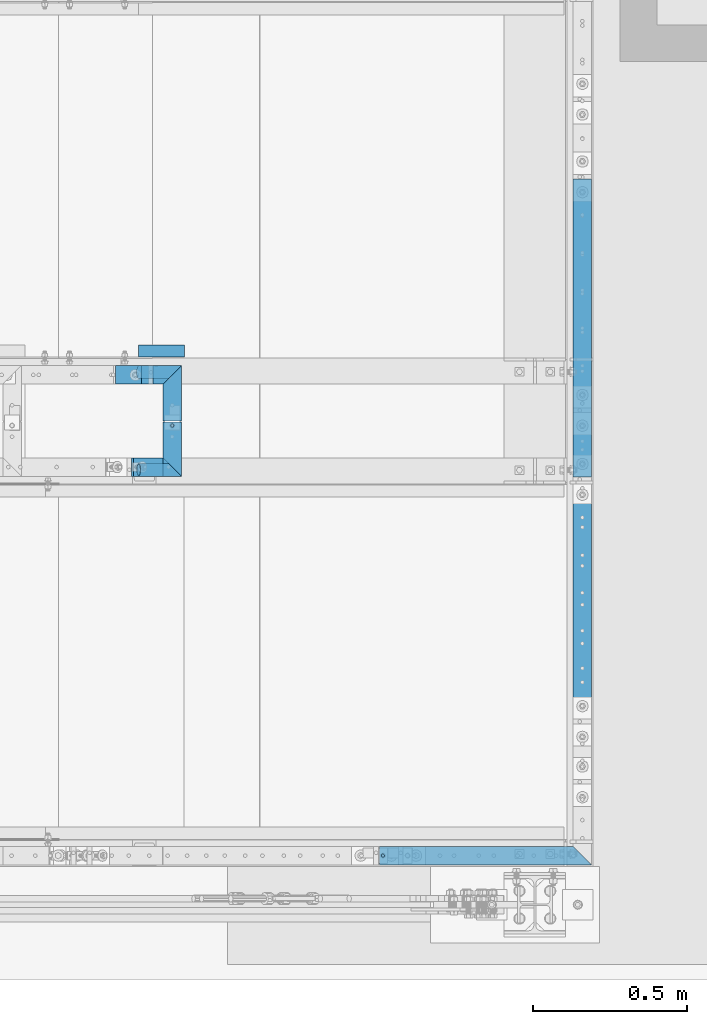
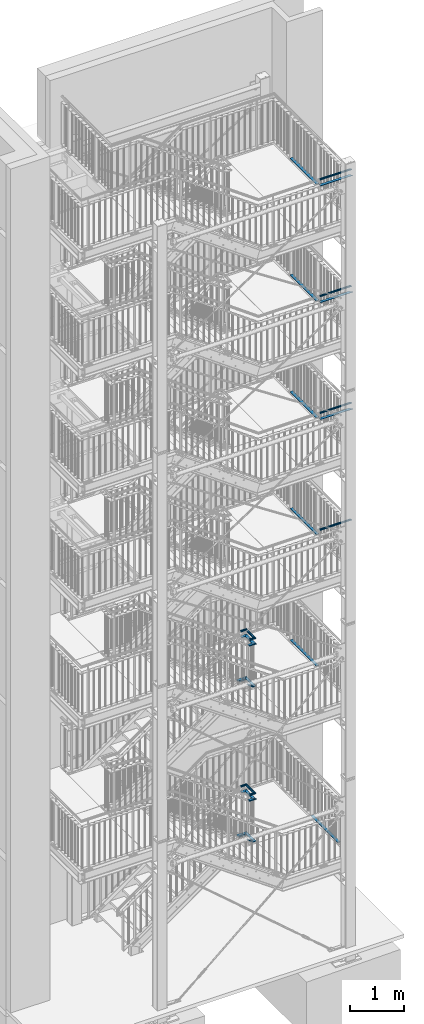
# One storey, part 139 of 821: 39 beams, 2 members, 19 openings.
"""IFC2X3 building model written with IfcOpenShell, lengths in millimetres."""

from ifc_helpers import new_model, entity, si_unit, converted_unit, frame, frame_2d, origin, origin_with_axes, origin_2d, origin_2d_with_axis, place, context, project, spatial, polyline, rectangle, circle, hollow_circle, l_section, outline, extrude, clip, halfspace, material, element, save


model = new_model("IFC2X3")

# Units and contexts
model_context = context("Model", 3, precision=1e-09, world=origin_with_axes())
ifc_project = project(units=[si_unit("LENGTHUNIT", "METRE", prefix="MILLI"), si_unit("AREAUNIT", "SQUARE_METRE"), si_unit("VOLUMEUNIT", "CUBIC_METRE"), converted_unit("PLANEANGLEUNIT", "DEGREE", entity("IfcPlaneAngleMeasure", 0.01745329), si_unit("PLANEANGLEUNIT", "RADIAN"), dimensions=[0, 0, 0, 0, 0, 0, 0])], contexts=[model_context])

# Site, building, storey
site_placement = place(None, origin_with_axes())
site = spatial("IfcSite", under=ifc_project, at=site_placement, Name="Cnopf'sche Kinderklinik", CompositionType="ELEMENT")
building_placement = place(site_placement, origin_with_axes())
building = spatial("IfcBuilding", under=site, at=building_placement, Name="Struktur 1", CompositionType="ELEMENT")
storey_placement = place(building_placement, origin_with_axes())
storey = spatial("IfcBuildingStorey", under=building, at=storey_placement, Name="Default Storey", CompositionType="ELEMENT", Elevation=0.0)

# Beam, openings
ifc_material = material(Name="S235JR")
beam_1_placement = place(None, frame((9021.713402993, 5976.351913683, 2246.0526312), z_axis=(0.0, 1.0, 0.0), x_axis=(0.0, 0.0, -1.0)))
beam_1 = element("IfcBeam", 1, at=beam_1_placement, inside=storey, material=ifc_material, Name="Railing_Kneerail_Landing#8", ObjectType="Railing_Kneerail_Landing#8", context=model_context, shape_type="SweptSolid", body=[
    extrude(rectangle(XDim=10.0, YDim=60.0, at=origin_2d()), origin(), (0.0, 0.0, -1.0), 1013.077117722),
])
opening_1_placement = place(beam_1_placement, frame((60.0, 0.0, -1013.077117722), z_axis=(-1.0, 0.0, 0.0), x_axis=(0.0, -1.0, 0.0)))
element("IfcOpeningElement", 2, at=opening_1_placement, cuts=beam_1, ObjectType="Opening", context=model_context, shape_type="SweptSolid", body=[
    extrude(outline(polyline([(-30.001, 1005.576117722), (30.001, 1005.576117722), (30.001, 1020.578117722), (-30.001, 1020.578117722), (-30.001, 1005.576117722)])), origin(), (0.0, 0.0, 1.0), 120.0),
])
opening_2_placement = place(beam_1_placement, frame((60.0, 0.0, -1013.077117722), z_axis=(-1.0, 0.0, 0.0), x_axis=(0.0, -1.0, 0.0)))
element("IfcOpeningElement", 3, at=opening_2_placement, cuts=beam_1, ObjectType="Opening", context=model_context, shape_type="SweptSolid", body=[
    extrude(outline(polyline([(-30.001, -7.501), (30.001, -7.501), (30.001, 7.501), (-30.001, 7.501), (-30.001, -7.501)])), origin(), (0.0, 0.0, 1.0), 120.0),
])

beam_2_placement = place(None, frame((9021.713402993, 6736.736257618, 5739.8947367), z_axis=(0.0, 1.0, 0.0), x_axis=(0.0, 0.0, -1.0)))
beam_2 = element("IfcBeam", 4, at=beam_2_placement, inside=storey, material=ifc_material, Name="Railing_Kneerail_Landing#9", ObjectType="Railing_Kneerail_Landing#9", context=model_context, shape_type="SweptSolid", body=[
    extrude(rectangle(XDim=10.0, YDim=60.0, at=origin_2d()), origin(), (0.0, 0.0, -1.0), 985.000142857),
])
opening_3_placement = place(beam_2_placement, frame((60.0, 0.0, -985.000142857), z_axis=(-1.0, 0.0, 0.0), x_axis=(0.0, -1.0, 0.0)))
element("IfcOpeningElement", 5, at=opening_3_placement, cuts=beam_2, ObjectType="Opening", context=model_context, shape_type="SweptSolid", body=[
    extrude(outline(polyline([(-30.001, 977.499142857), (30.001, 977.499142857), (30.001, 992.501142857), (-30.001, 992.501142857), (-30.001, 977.499142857)])), origin(), (0.0, 0.0, 1.0), 120.0),
])
opening_4_placement = place(beam_2_placement, frame((60.0, 0.0, -985.000142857), z_axis=(-1.0, 0.0, 0.0), x_axis=(0.0, -1.0, 0.0)))
element("IfcOpeningElement", 6, at=opening_4_placement, cuts=beam_2, ObjectType="Opening", context=model_context, shape_type="SweptSolid", body=[
    extrude(outline(polyline([(-30.001, -7.501), (30.001, -7.501), (30.001, 7.501), (-30.001, 7.501), (-30.001, -7.501)])), origin(), (0.0, 0.0, 1.0), 120.0),
])

beam_3_placement = place(None, frame((9021.713402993, 6736.736257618, 8701.0), z_axis=(0.0, 1.0, 0.0), x_axis=(0.0, 0.0, -1.0)))
beam_3 = element("IfcBeam", 7, at=beam_3_placement, inside=storey, material=ifc_material, Name="Railing_Kneerail_Landing#9", ObjectType="Railing_Kneerail_Landing#9", context=model_context, shape_type="SweptSolid", body=[
    extrude(rectangle(XDim=10.0, YDim=60.0, at=origin_2d()), origin(), (0.0, 0.0, -1.0), 985.000142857),
])
opening_5_placement = place(beam_3_placement, frame((60.0, 0.0, -985.000142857), z_axis=(-1.0, 0.0, 0.0), x_axis=(0.0, -1.0, 0.0)))
element("IfcOpeningElement", 8, at=opening_5_placement, cuts=beam_3, ObjectType="Opening", context=model_context, shape_type="SweptSolid", body=[
    extrude(outline(polyline([(-30.001, 977.499142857), (30.001, 977.499142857), (30.001, 992.501142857), (-30.001, 992.501142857), (-30.001, 977.499142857)])), origin(), (0.0, 0.0, 1.0), 120.0),
])
opening_6_placement = place(beam_3_placement, frame((60.0, 0.0, -985.000142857), z_axis=(-1.0, 0.0, 0.0), x_axis=(0.0, -1.0, 0.0)))
element("IfcOpeningElement", 9, at=opening_6_placement, cuts=beam_3, ObjectType="Opening", context=model_context, shape_type="SweptSolid", body=[
    extrude(outline(polyline([(-30.001, -7.501), (30.001, -7.501), (30.001, 7.501), (-30.001, 7.501), (-30.001, -7.501)])), origin(), (0.0, 0.0, 1.0), 120.0),
])

# Beam
beam_4_placement = place(None, frame((7726.713402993, 6160.936971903, 5663.6947367), z_axis=(1.0, 0.0, 0.0), x_axis=(0.0, 0.0, -1.0)))
element("IfcBeam", 10, at=beam_4_placement, inside=storey, material=ifc_material, Name="TopLanding#3", ObjectType="TopLanding#3", context=model_context, shape_type="SweptSolid", body=[
    extrude(l_section(Depth=40.0, Width=40.0, Thickness=4.0, FilletRadius=6.0, EdgeRadius=3.0, at=frame_2d((8.8, 8.8))), origin(), (0.0, 0.0, -1.0), 150.0),
])

# Beam, openings
beam_5_placement = place(None, frame((9021.713402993, 6736.736257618, 11330.5000003), z_axis=(0.0, 1.0, 0.0), x_axis=(0.0, 0.0, -1.0)))
beam_5 = element("IfcBeam", 11, at=beam_5_placement, inside=storey, material=ifc_material, Name="Railing_Kneerail_Landing#9", ObjectType="Railing_Kneerail_Landing#9", context=model_context, shape_type="SweptSolid", body=[
    extrude(rectangle(XDim=10.0, YDim=60.0, at=origin_2d()), origin(), (0.0, 0.0, -1.0), 985.000142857),
])
opening_7_placement = place(beam_5_placement, frame((60.0, 0.0, -985.000142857), z_axis=(-1.0, 0.0, 0.0), x_axis=(0.0, -1.0, 0.0)))
element("IfcOpeningElement", 12, at=opening_7_placement, cuts=beam_5, ObjectType="Opening", context=model_context, shape_type="SweptSolid", body=[
    extrude(outline(polyline([(-30.001, 977.499142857), (30.001, 977.499142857), (30.001, 992.501142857), (-30.001, 992.501142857), (-30.001, 977.499142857)])), origin(), (0.0, 0.0, 1.0), 120.0),
])
opening_8_placement = place(beam_5_placement, frame((60.0, 0.0, -985.000142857), z_axis=(-1.0, 0.0, 0.0), x_axis=(0.0, -1.0, 0.0)))
element("IfcOpeningElement", 13, at=opening_8_placement, cuts=beam_5, ObjectType="Opening", context=model_context, shape_type="SweptSolid", body=[
    extrude(outline(polyline([(-30.001, -7.501), (30.001, -7.501), (30.001, 7.501), (-30.001, 7.501), (-30.001, -7.501)])), origin(), (0.0, 0.0, 1.0), 120.0),
])

beam_6_placement = place(None, frame((9021.713402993, 6736.736257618, 13961.5000001), z_axis=(0.0, 1.0, 0.0), x_axis=(0.0, 0.0, -1.0)))
beam_6 = element("IfcBeam", 14, at=beam_6_placement, inside=storey, material=ifc_material, Name="Railing_Kneerail_Landing#9", ObjectType="Railing_Kneerail_Landing#9", context=model_context, shape_type="SweptSolid", body=[
    extrude(rectangle(XDim=10.0, YDim=60.0, at=origin_2d()), origin(), (0.0, 0.0, -1.0), 985.000142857),
])
opening_9_placement = place(beam_6_placement, frame((60.0, 0.0, -985.000142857), z_axis=(-1.0, 0.0, 0.0), x_axis=(0.0, -1.0, 0.0)))
element("IfcOpeningElement", 15, at=opening_9_placement, cuts=beam_6, ObjectType="Opening", context=model_context, shape_type="SweptSolid", body=[
    extrude(outline(polyline([(-30.001, 977.499142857), (30.001, 977.499142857), (30.001, 992.501142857), (-30.001, 992.501142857), (-30.001, 977.499142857)])), origin(), (0.0, 0.0, 1.0), 120.0),
])
opening_10_placement = place(beam_6_placement, frame((60.0, 0.0, -985.000142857), z_axis=(-1.0, 0.0, 0.0), x_axis=(0.0, -1.0, 0.0)))
element("IfcOpeningElement", 16, at=opening_10_placement, cuts=beam_6, ObjectType="Opening", context=model_context, shape_type="SweptSolid", body=[
    extrude(outline(polyline([(-30.001, -7.501), (30.001, -7.501), (30.001, 7.501), (-30.001, 7.501), (-30.001, -7.501)])), origin(), (0.0, 0.0, 1.0), 120.0),
])

# Beam
beam_7_placement = place(None, frame((7726.713402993, 6160.936971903, 2169.8526312), z_axis=(1.0, 0.0, 0.0), x_axis=(0.0, 0.0, -1.0)))
element("IfcBeam", 17, at=beam_7_placement, inside=storey, material=ifc_material, Name="TopLanding#3", ObjectType="TopLanding#3", context=model_context, shape_type="SweptSolid", body=[
    extrude(l_section(Depth=40.0, Width=40.0, Thickness=4.0, FilletRadius=6.0, EdgeRadius=3.0, at=frame_2d((8.8, 8.8))), origin(), (0.0, 0.0, -1.0), 150.0),
])

# Beam, openings
beam_8_placement = place(None, frame((9021.713402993, 6736.736257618, 16589.0000003), z_axis=(0.0, 1.0, 0.0), x_axis=(0.0, 0.0, -1.0)))
beam_8 = element("IfcBeam", 18, at=beam_8_placement, inside=storey, material=ifc_material, Name="Railing_Kneerail_Landing#9", ObjectType="Railing_Kneerail_Landing#9", context=model_context, shape_type="SweptSolid", body=[
    extrude(rectangle(XDim=10.0, YDim=60.0, at=origin_2d()), origin(), (0.0, 0.0, -1.0), 985.000142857),
])
opening_11_placement = place(beam_8_placement, frame((60.0, 0.0, -985.000142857), z_axis=(-1.0, 0.0, 0.0), x_axis=(0.0, -1.0, 0.0)))
element("IfcOpeningElement", 19, at=opening_11_placement, cuts=beam_8, ObjectType="Opening", context=model_context, shape_type="SweptSolid", body=[
    extrude(outline(polyline([(-30.001, 977.499142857), (30.001, 977.499142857), (30.001, 992.501142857), (-30.001, 992.501142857), (-30.001, 977.499142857)])), origin(), (0.0, 0.0, 1.0), 120.0),
])
opening_12_placement = place(beam_8_placement, frame((60.0, 0.0, -985.000142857), z_axis=(-1.0, 0.0, 0.0), x_axis=(0.0, -1.0, 0.0)))
element("IfcOpeningElement", 20, at=opening_12_placement, cuts=beam_8, ObjectType="Opening", context=model_context, shape_type="SweptSolid", body=[
    extrude(outline(polyline([(-30.001, -7.501), (30.001, -7.501), (30.001, 7.501), (-30.001, 7.501), (-30.001, -7.501)])), origin(), (0.0, 0.0, 1.0), 120.0),
])

# Beams
beam_9_placement = place(None, frame((7545.238006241, 6100.536971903, 3321.0526312), z_axis=(-1.0, 0.0, 0.0), x_axis=(0.0, 0.0, -1.0)))
element("IfcBeam", 21, at=beam_9_placement, inside=storey, material=ifc_material, Name="Railing_Handrail_Landing#3", ObjectType="Railing_Handrail_Landing#3", context=model_context, shape_type="Clipping", body=[
    clip(clip(extrude(hollow_circle(Radius=21.2, WallThickness=3.2, at=origin_2d()), origin(), (0.0, 0.0, -1.0), 192.498336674), halfspace(frame((3321.0526312, 6897.935950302, 6747.839027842), z_axis=(0.0, -0.707106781, 0.707106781), x_axis=(0.0, 0.707106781, 0.707106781)), True)), halfspace(frame((816.100663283, 6100.536971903, -292.309687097), z_axis=(-0.304437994, 0.0, -0.952532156), x_axis=(0.0, -1.0, 0.0)), True)),
])
beam_10_placement = place(None, frame((7501.352605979, 6091.736971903, 2246.0526312), z_axis=(-1.0, 0.0, 0.0), x_axis=(0.0, 0.0, -1.0)))
element("IfcBeam", 22, at=beam_10_placement, inside=storey, material=ifc_material, Name="Railing_Kneerail_Landing#3", ObjectType="Railing_Kneerail_Landing#3", context=model_context, shape_type="SweptSolid", body=[
    extrude(rectangle(XDim=10.0, YDim=60.0, at=origin_2d()), origin(), (0.0, 0.0, -1.0), 107.861297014),
])
beam_11_placement = place(None, frame((7624.213902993, 6091.736971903, 2246.0526312), z_axis=(-1.0, 0.0, 0.0), x_axis=(0.0, 0.0, -1.0)))
element("IfcBeam", 23, at=beam_11_placement, inside=storey, material=ifc_material, Name="Railing_Kneerail_Landing#4", ObjectType="Railing_Kneerail_Landing#4", context=model_context, shape_type="Clipping", body=[
    clip(extrude(rectangle(XDim=10.0, YDim=60.0, at=origin_2d()), origin(), (0.0, 0.0, -1.0), 105.334066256), halfspace(frame((2246.0526312, 6889.135950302, 6826.814924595), z_axis=(0.0, -0.707106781, 0.707106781), x_axis=(0.0, 0.707106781, 0.707106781)), True)),
])
beam_12_placement = place(None, frame((7545.267696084, 6100.536971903, 6814.8947367), z_axis=(-1.0, 0.0, 0.0), x_axis=(0.0, 0.0, -1.0)))
element("IfcBeam", 24, at=beam_12_placement, inside=storey, material=ifc_material, Name="Railing_Handrail_Landing#4", ObjectType="Railing_Handrail_Landing#4", context=model_context, shape_type="Clipping", body=[
    clip(clip(extrude(hollow_circle(Radius=21.2, WallThickness=3.2, at=origin_2d()), origin(), (0.0, 0.0, -1.0), 192.047389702), halfspace(frame((6814.8947367, 6897.725321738, 6748.079346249), z_axis=(0.0, -0.707106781, 0.707106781), x_axis=(0.0, 0.707106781, 0.707106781)), True)), halfspace(frame((4016.163485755, 6100.536971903, -1301.924645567), z_axis=(-0.301609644, 0.0, -0.953431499), x_axis=(0.0, -1.0, 0.0)), True)),
])
beam_13_placement = place(None, frame((7500.836877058, 6091.736971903, 5739.8947367), z_axis=(-1.0, 0.0, 0.0), x_axis=(0.0, 0.0, -1.0)))
element("IfcBeam", 25, at=beam_13_placement, inside=storey, material=ifc_material, Name="Railing_Kneerail_Landing#5", ObjectType="Railing_Kneerail_Landing#5", context=model_context, shape_type="SweptSolid", body=[
    extrude(rectangle(XDim=10.0, YDim=60.0, at=origin_2d()), origin(), (0.0, 0.0, -1.0), 108.377025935),
])
beam_14_placement = place(None, frame((7624.213902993, 6091.736971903, 5739.8947367), z_axis=(-1.0, 0.0, 0.0), x_axis=(0.0, 0.0, -1.0)))
element("IfcBeam", 26, at=beam_14_placement, inside=storey, material=ifc_material, Name="Railing_Kneerail_Landing#6", ObjectType="Railing_Kneerail_Landing#6", context=model_context, shape_type="Clipping", body=[
    clip(extrude(rectangle(XDim=10.0, YDim=60.0, at=origin_2d()), origin(), (0.0, 0.0, -1.0), 104.912809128), halfspace(frame((5739.8947367, 6888.925321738, 6827.025553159), z_axis=(0.0, -0.707106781, 0.707106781), x_axis=(0.0, 0.707106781, 0.707106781)), True)),
])
beam_15_placement = place(None, frame((7737.736342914, 5782.936971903, 3321.0526312), z_axis=(1.0, 0.0, 0.0), x_axis=(0.0, 0.0, -1.0)))
element("IfcBeam", 27, at=beam_15_placement, inside=storey, material=ifc_material, Name="Railing_Handrail_Landing#2", ObjectType="Railing_Handrail_Landing#2", context=model_context, shape_type="Clipping", body=[
    clip(clip(extrude(hollow_circle(Radius=21.2, WallThickness=3.2, at=origin_2d()), origin(), (0.0, 0.0, -1.0), 192.498336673), halfspace(frame((3321.0526312, 956.198978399, -998.600392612), z_axis=(0.0, -0.707106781, -0.707106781), x_axis=(0.0, -0.707106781, 0.707106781)), True)), halfspace(frame((5210.397729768, -5782.936971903, -1826.312687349), z_axis=(0.304437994, 0.0, 0.952532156), x_axis=(0.0, 1.0, 0.0)), True)),
])

# Member
member_1_placement = place(None, frame((7653.210611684, 5791.736971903, 2246.3812885), z_axis=(0.814635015, 0.0, -0.579973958), x_axis=(-0.579973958, 0.0, -0.814635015)))
element("IfcMember", 28, at=member_1_placement, inside=storey, material=ifc_material, Name="Railing_Kneerail_Stair#1", ObjectType="Railing_Kneerail_Stair#1", context=model_context, shape_type="SweptSolid", body=[
    extrude(rectangle(XDim=10.0, YDim=60.0, at=origin_2d()), origin(), (0.0, 0.0, -1.0), 117.962445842),
])

# Beams
beam_16_placement = place(None, frame((7769.726029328, 5791.736971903, 3194.8526312), z_axis=(1.0, 0.0, 0.0), x_axis=(0.0, 0.0, -1.0)))
element("IfcBeam", 29, at=beam_16_placement, inside=storey, material=ifc_material, Name="Railing_Kneerail_Landing#1000", ObjectType="Railing_Kneerail_Landing#1000", context=model_context, shape_type="Clipping", body=[
    clip(extrude(rectangle(XDim=10.0, YDim=60.0, at=origin_2d()), origin(), (0.0, 0.0, -1.0), 199.788340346), halfspace(frame((3194.8526312, 947.398978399, -1030.590079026), z_axis=(0.0, -0.707106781, -0.707106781), x_axis=(0.0, -0.707106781, 0.707106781)), True)),
])
beam_17_placement = place(None, frame((7737.315085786, 5782.936971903, 6814.8947367), z_axis=(1.0, 0.0, 0.0), x_axis=(0.0, 0.0, -1.0)))
element("IfcBeam", 30, at=beam_17_placement, inside=storey, material=ifc_material, Name="Railing_Handrail_Landing#2", ObjectType="Railing_Handrail_Landing#2", context=model_context, shape_type="Clipping", body=[
    clip(clip(extrude(hollow_circle(Radius=21.2, WallThickness=3.2, at=origin_2d()), origin(), (0.0, 0.0, -1.0), 192.047389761), halfspace(frame((6814.8947367, 955.988349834, -998.389764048), z_axis=(0.0, -0.707106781, -0.707106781), x_axis=(0.0, -0.707106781, 0.707106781)), True)), halfspace(frame((8373.746157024, -5782.936971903, -2809.561361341), z_axis=(0.301609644, 0.0, 0.953431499), x_axis=(0.0, 1.0, 0.0)), True)),
])

# Member
member_2_placement = place(None, frame((7653.119789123, 5791.736971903, 5740.634222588), z_axis=(0.818063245, 0.0, -0.57512827), x_axis=(-0.57512827, 0.0, -0.818063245)))
element("IfcMember", 31, at=member_2_placement, inside=storey, material=ifc_material, Name="Railing_Kneerail_Stair#1", ObjectType="Railing_Kneerail_Stair#1", context=model_context, shape_type="SweptSolid", body=[
    extrude(rectangle(XDim=10.0, YDim=60.0, at=origin_2d()), origin(), (0.0, 0.0, -1.0), 117.38670001),
])

# Beams
beam_18_placement = place(None, frame((7769.726029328, 5791.736971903, 6688.6947367), z_axis=(1.0, 0.0, 0.0), x_axis=(0.0, 0.0, -1.0)))
element("IfcBeam", 32, at=beam_18_placement, inside=storey, material=ifc_material, Name="Railing_Kneerail_Landing#1000", ObjectType="Railing_Kneerail_Landing#1000", context=model_context, shape_type="Clipping", body=[
    clip(extrude(rectangle(XDim=10.0, YDim=60.0, at=origin_2d()), origin(), (0.0, 0.0, -1.0), 199.719059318), halfspace(frame((6688.6947367, 947.188349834, -1030.80070759), z_axis=(0.0, -0.707106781, -0.707106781), x_axis=(0.0, -0.707106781, 0.707106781)), True)),
])
beam_19_placement = place(None, frame((7586.583247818, 6091.736971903, 6688.6947367), z_axis=(-1.0, 0.0, 0.0), x_axis=(0.0, 0.0, -1.0)))
element("IfcBeam", 33, at=beam_19_placement, inside=storey, material=ifc_material, Name="Railing_Kneerail_Landing#1005", ObjectType="Railing_Kneerail_Landing#1005", context=model_context, shape_type="Clipping", body=[
    clip(extrude(rectangle(XDim=10.0, YDim=60.0, at=origin_2d()), origin(), (0.0, 0.0, -1.0), 142.543464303), halfspace(frame((6688.6947367, 6888.925321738, 6789.394897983), z_axis=(0.0, -0.707106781, 0.707106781), x_axis=(0.0, 0.707106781, 0.707106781)), True)),
])
beam_20_placement = place(None, frame((7586.685208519, 6091.736971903, 3194.8526312), z_axis=(-1.0, 0.0, 0.0), x_axis=(0.0, 0.0, -1.0)))
element("IfcBeam", 34, at=beam_20_placement, inside=storey, material=ifc_material, Name="Railing_Kneerail_Landing#1003", ObjectType="Railing_Kneerail_Landing#1003", context=model_context, shape_type="Clipping", body=[
    clip(extrude(rectangle(XDim=10.0, YDim=60.0, at=origin_2d()), origin(), (0.0, 0.0, -1.0), 142.86276073), halfspace(frame((3194.8526312, 6889.135950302, 6789.28623012), z_axis=(0.0, -0.707106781, 0.707106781), x_axis=(0.0, 0.707106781, 0.707106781)), True)),
])
beam_21_placement = place(None, frame((9055.313402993, 4535.536971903, 9776.0), z_axis=(1.0, 0.0, 0.0), x_axis=(0.0, 0.0, -1.0)))
element("IfcBeam", 35, at=beam_21_placement, inside=storey, material=ifc_material, Name="Railing_Handrail_Landing#6", ObjectType="Railing_Handrail_Landing#6", context=model_context, shape_type="Clipping", body=[
    clip(extrude(hollow_circle(Radius=21.2, WallThickness=3.2, at=origin_2d()), origin(), (0.0, 0.0, -1.0), 695.021142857), halfspace(frame((9776.0, 2238.687508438, -2281.088922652), z_axis=(0.0, -0.707106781, -0.707106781), x_axis=(0.0, -0.707106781, 0.707106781)), True)),
])

# Beam, opening
beam_22_placement = place(None, frame((9064.725029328, 4526.736971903, 12279.3000003), z_axis=(1.0, 0.0, 0.0), x_axis=(0.0, 0.0, -1.0)))
beam_22 = element("IfcBeam", 36, at=beam_22_placement, inside=storey, material=ifc_material, Name="Railing_Kneerail_Landing#1012", ObjectType="Railing_Kneerail_Landing#1012", context=model_context, shape_type="Clipping", body=[
    clip(extrude(rectangle(XDim=10.0, YDim=60.0, at=origin_2d()), origin(), (0.0, 0.0, -1.0), 704.432769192), halfspace(frame((12279.3000003, 2247.487508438, -2290.500548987), z_axis=(0.0, -0.707106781, -0.707106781), x_axis=(0.0, -0.707106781, 0.707106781)), True)),
])
opening_13_placement = place(beam_22_placement, frame((5.5, 0.0, -692.432769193), z_axis=(-1.0, 0.0, 0.0), x_axis=(0.0, 0.0, 1.0)))
element("IfcOpeningElement", 37, at=opening_13_placement, cuts=beam_22, ObjectType="Opening", context=model_context, shape_type="SweptSolid", body=[
    extrude(circle(Radius=5.001, at=origin_2d_with_axis()), origin(), (0.0, 0.0, 1.0), 11.0),
])

# Beam
beam_23_placement = place(None, frame((9055.313402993, 4535.536971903, 12405.5000003), z_axis=(1.0, 0.0, 0.0), x_axis=(0.0, 0.0, -1.0)))
element("IfcBeam", 38, at=beam_23_placement, inside=storey, material=ifc_material, Name="Railing_Handrail_Landing#6", ObjectType="Railing_Handrail_Landing#6", context=model_context, shape_type="Clipping", body=[
    clip(extrude(hollow_circle(Radius=21.2, WallThickness=3.2, at=origin_2d()), origin(), (0.0, 0.0, -1.0), 695.021142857), halfspace(frame((12405.5000003, 2238.687508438, -2281.088922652), z_axis=(0.0, -0.707106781, -0.707106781), x_axis=(0.0, -0.707106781, 0.707106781)), True)),
])

# Beam, opening
beam_24_placement = place(None, frame((9064.725029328, 4526.736971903, 14910.3000001), z_axis=(1.0, 0.0, 0.0), x_axis=(0.0, 0.0, -1.0)))
beam_24 = element("IfcBeam", 39, at=beam_24_placement, inside=storey, material=ifc_material, Name="Railing_Kneerail_Landing#1014", ObjectType="Railing_Kneerail_Landing#1014", context=model_context, shape_type="Clipping", body=[
    clip(extrude(rectangle(XDim=10.0, YDim=60.0, at=origin_2d()), origin(), (0.0, 0.0, -1.0), 704.432769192), halfspace(frame((14910.3000001, 2247.487508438, -2290.500548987), z_axis=(0.0, -0.707106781, -0.707106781), x_axis=(0.0, -0.707106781, 0.707106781)), True)),
])
opening_14_placement = place(beam_24_placement, frame((5.5, 0.0, -692.432769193), z_axis=(-1.0, 0.0, 0.0), x_axis=(0.0, 0.0, 1.0)))
element("IfcOpeningElement", 40, at=opening_14_placement, cuts=beam_24, ObjectType="Opening", context=model_context, shape_type="SweptSolid", body=[
    extrude(circle(Radius=5.001, at=origin_2d_with_axis()), origin(), (0.0, 0.0, 1.0), 11.0),
])

# Beam
beam_25_placement = place(None, frame((9055.313402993, 4535.536971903, 15036.5000001), z_axis=(1.0, 0.0, 0.0), x_axis=(0.0, 0.0, -1.0)))
element("IfcBeam", 41, at=beam_25_placement, inside=storey, material=ifc_material, Name="Railing_Handrail_Landing#6", ObjectType="Railing_Handrail_Landing#6", context=model_context, shape_type="Clipping", body=[
    clip(extrude(hollow_circle(Radius=21.2, WallThickness=3.2, at=origin_2d()), origin(), (0.0, 0.0, -1.0), 695.021142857), halfspace(frame((15036.5000001, 2238.687508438, -2281.088922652), z_axis=(0.0, -0.707106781, -0.707106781), x_axis=(0.0, -0.707106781, 0.707106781)), True)),
])

# Beam, opening
beam_26_placement = place(None, frame((9064.725029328, 4526.736971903, 17537.8000003), z_axis=(1.0, 0.0, 0.0), x_axis=(0.0, 0.0, -1.0)))
beam_26 = element("IfcBeam", 42, at=beam_26_placement, inside=storey, material=ifc_material, Name="Railing_Kneerail_Landing#1012", ObjectType="Railing_Kneerail_Landing#1012", context=model_context, shape_type="Clipping", body=[
    clip(extrude(rectangle(XDim=10.0, YDim=60.0, at=origin_2d()), origin(), (0.0, 0.0, -1.0), 704.432769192), halfspace(frame((17537.8000003, 2247.487508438, -2290.500548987), z_axis=(0.0, -0.707106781, -0.707106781), x_axis=(0.0, -0.707106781, 0.707106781)), True)),
])
opening_15_placement = place(beam_26_placement, frame((5.5, 0.0, -692.432769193), z_axis=(-1.0, 0.0, 0.0), x_axis=(0.0, 0.0, 1.0)))
element("IfcOpeningElement", 43, at=opening_15_placement, cuts=beam_26, ObjectType="Opening", context=model_context, shape_type="SweptSolid", body=[
    extrude(circle(Radius=5.001, at=origin_2d_with_axis()), origin(), (0.0, 0.0, 1.0), 11.0),
])

# Beams
beam_27_placement = place(None, frame((9055.313402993, 4535.536971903, 17664.0000003), z_axis=(1.0, 0.0, 0.0), x_axis=(0.0, 0.0, -1.0)))
element("IfcBeam", 44, at=beam_27_placement, inside=storey, material=ifc_material, Name="Railing_Handrail_Landing#6", ObjectType="Railing_Handrail_Landing#6", context=model_context, shape_type="Clipping", body=[
    clip(extrude(hollow_circle(Radius=21.2, WallThickness=3.2, at=origin_2d()), origin(), (0.0, 0.0, -1.0), 695.021142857), halfspace(frame((17664.0000003, 2238.687508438, -2281.088922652), z_axis=(0.0, -0.707106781, -0.707106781), x_axis=(0.0, -0.707106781, 0.707106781)), True)),
])
beam_28_placement = place(None, frame((7694.915085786, 6142.936971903, 6814.8947367), z_axis=(0.0, 1.0, 0.0), x_axis=(0.0, 0.0, -1.0)))
element("IfcBeam", 45, at=beam_28_placement, inside=storey, material=ifc_material, Name="Railing_Handrail_Landing#5", ObjectType="Railing_Handrail_Landing#5", context=model_context, shape_type="Clipping", body=[
    clip(extrude(hollow_circle(Radius=21.2, WallThickness=3.2, at=origin_2d()), origin(), (0.0, 0.0, -1.0), 201.2), halfspace(frame((6814.8947367, 6897.725321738, -6940.126735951), z_axis=(0.0, -0.707106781, -0.707106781), x_axis=(0.0, -0.707106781, 0.707106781)), True)),
])
beam_29_placement = place(None, frame((7694.915085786, 5938.736971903, 6814.8947367), z_axis=(0.0, 1.0, 0.0), x_axis=(0.0, 0.0, -1.0)))
element("IfcBeam", 46, at=beam_29_placement, inside=storey, material=ifc_material, Name="Railing_Handrail_Landing#5", ObjectType="Railing_Handrail_Landing#5", context=model_context, shape_type="Clipping", body=[
    clip(extrude(hollow_circle(Radius=21.2, WallThickness=3.2, at=origin_2d()), origin(), (0.0, 0.0, -1.0), 198.2), halfspace(frame((6814.8947367, 955.988349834, 800.189764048), z_axis=(0.0, -0.707106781, 0.707106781), x_axis=(0.0, 0.707106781, 0.707106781)), True)),
])
beam_30_placement = place(None, frame((7686.115085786, 6134.748598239, 6688.6947367), z_axis=(0.0, 1.0, 0.0), x_axis=(0.0, 0.0, -1.0)))
element("IfcBeam", 47, at=beam_30_placement, inside=storey, material=ifc_material, Name="Railing_Kneerail_Landing#1007", ObjectType="Railing_Kneerail_Landing#1007", context=model_context, shape_type="Clipping", body=[
    clip(extrude(rectangle(XDim=10.0, YDim=60.0, at=origin_2d()), origin(), (0.0, 0.0, -1.0), 193.011626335), halfspace(frame((6688.6947367, 6888.925321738, -6931.938362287), z_axis=(0.0, -0.707106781, -0.707106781), x_axis=(0.0, -0.707106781, 0.707106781)), True)),
])

# Beam, opening
beam_31_placement = place(None, frame((7686.115085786, 5938.736971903, 6688.6947367), z_axis=(0.0, 1.0, 0.0), x_axis=(0.0, 0.0, -1.0)))
beam_31 = element("IfcBeam", 48, at=beam_31_placement, inside=storey, material=ifc_material, Name="Railing_Kneerail_Landing#1007", ObjectType="Railing_Kneerail_Landing#1007", context=model_context, shape_type="Clipping", body=[
    clip(extrude(rectangle(XDim=10.0, YDim=60.0, at=origin_2d()), origin(), (0.0, 0.0, -1.0), 190.011626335), halfspace(frame((6688.6947367, 947.188349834, 800.189764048), z_axis=(0.0, -0.707106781, 0.707106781), x_axis=(0.0, 0.707106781, 0.707106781)), True)),
])
opening_16_placement = place(beam_31_placement, frame((5.5, 0.0, -6.998999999), z_axis=(1.0, 0.0, 0.0), x_axis=(0.0, 1.0, 0.0)))
element("IfcOpeningElement", 49, at=opening_16_placement, cuts=beam_31, ObjectType="Opening", context=model_context, shape_type="SweptSolid", body=[
    extrude(circle(Radius=5.001, at=frame_2d((0.0, -5.001), x_axis=(1.0, 0.0))), origin(), (0.0, 0.0, -1.0), 11.0),
])

# Beam
beam_32_placement = place(None, frame((7686.115085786, 6134.748598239, 5739.8947367), z_axis=(0.0, 1.0, 0.0), x_axis=(0.0, 0.0, -1.0)))
element("IfcBeam", 50, at=beam_32_placement, inside=storey, material=ifc_material, Name="Railing_Kneerail_Landing#7", ObjectType="Railing_Kneerail_Landing#7", context=model_context, shape_type="Clipping", body=[
    clip(extrude(rectangle(XDim=10.0, YDim=60.0, at=origin_2d()), origin(), (0.0, 0.0, -1.0), 193.011626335), halfspace(frame((5739.8947367, 6888.925321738, -6931.938362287), z_axis=(0.0, -0.707106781, -0.707106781), x_axis=(0.0, -0.707106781, 0.707106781)), True)),
])

# Beam, opening
beam_33_placement = place(None, frame((7686.115085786, 5938.736971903, 5739.8947367), z_axis=(0.0, 1.0, 0.0), x_axis=(0.0, 0.0, -1.0)))
beam_33 = element("IfcBeam", 51, at=beam_33_placement, inside=storey, material=ifc_material, Name="Railing_Kneerail_Landing#7", ObjectType="Railing_Kneerail_Landing#7", context=model_context, shape_type="SweptSolid", body=[
    extrude(rectangle(XDim=10.0, YDim=60.0, at=origin_2d()), origin(), (0.0, 0.0, -1.0), 177.0),
])
opening_17_placement = place(beam_33_placement, frame((5.5, 0.0, -6.998999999), z_axis=(1.0, 0.0, 0.0), x_axis=(0.0, 1.0, 0.0)))
element("IfcOpeningElement", 52, at=opening_17_placement, cuts=beam_33, ObjectType="Opening", context=model_context, shape_type="SweptSolid", body=[
    extrude(circle(Radius=5.001, at=frame_2d((0.0, -5.001), x_axis=(1.0, 0.0))), origin(), (0.0, 0.0, -1.0), 11.0),
])

# Beams
beam_34_placement = place(None, frame((7695.336342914, 6142.936971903, 3321.0526312), z_axis=(0.0, 1.0, 0.0), x_axis=(0.0, 0.0, -1.0)))
element("IfcBeam", 53, at=beam_34_placement, inside=storey, material=ifc_material, Name="Railing_Handrail_Landing#4", ObjectType="Railing_Handrail_Landing#4", context=model_context, shape_type="Clipping", body=[
    clip(extrude(hollow_circle(Radius=21.2, WallThickness=3.2, at=origin_2d()), origin(), (0.0, 0.0, -1.0), 201.2), halfspace(frame((3321.0526312, 6897.935950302, -6940.337364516), z_axis=(0.0, -0.707106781, -0.707106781), x_axis=(0.0, -0.707106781, 0.707106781)), True)),
])
beam_35_placement = place(None, frame((7695.336342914, 5938.736971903, 3321.0526312), z_axis=(0.0, 1.0, 0.0), x_axis=(0.0, 0.0, -1.0)))
element("IfcBeam", 54, at=beam_35_placement, inside=storey, material=ifc_material, Name="Railing_Handrail_Landing#4", ObjectType="Railing_Handrail_Landing#4", context=model_context, shape_type="Clipping", body=[
    clip(extrude(hollow_circle(Radius=21.2, WallThickness=3.2, at=origin_2d()), origin(), (0.0, 0.0, -1.0), 198.2), halfspace(frame((3321.0526312, 956.198978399, 800.400392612), z_axis=(0.0, -0.707106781, 0.707106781), x_axis=(0.0, 0.707106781, 0.707106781)), True)),
])
beam_36_placement = place(None, frame((7686.536342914, 6134.748598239, 3194.8526312), z_axis=(0.0, 1.0, 0.0), x_axis=(0.0, 0.0, -1.0)))
element("IfcBeam", 55, at=beam_36_placement, inside=storey, material=ifc_material, Name="Railing_Kneerail_Landing#1005", ObjectType="Railing_Kneerail_Landing#1005", context=model_context, shape_type="Clipping", body=[
    clip(extrude(rectangle(XDim=10.0, YDim=60.0, at=origin_2d()), origin(), (0.0, 0.0, -1.0), 193.011626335), halfspace(frame((3194.8526312, 6889.135950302, -6932.148990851), z_axis=(0.0, -0.707106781, -0.707106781), x_axis=(0.0, -0.707106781, 0.707106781)), True)),
])

# Beam, opening
beam_37_placement = place(None, frame((7686.536342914, 5938.736971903, 3194.8526312), z_axis=(0.0, 1.0, 0.0), x_axis=(0.0, 0.0, -1.0)))
beam_37 = element("IfcBeam", 56, at=beam_37_placement, inside=storey, material=ifc_material, Name="Railing_Kneerail_Landing#1005", ObjectType="Railing_Kneerail_Landing#1005", context=model_context, shape_type="Clipping", body=[
    clip(extrude(rectangle(XDim=10.0, YDim=60.0, at=origin_2d()), origin(), (0.0, 0.0, -1.0), 190.011626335), halfspace(frame((3194.8526312, 947.398978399, 800.400392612), z_axis=(0.0, -0.707106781, 0.707106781), x_axis=(0.0, 0.707106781, 0.707106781)), True)),
])
opening_18_placement = place(beam_37_placement, frame((5.5, 0.0, -6.998999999), z_axis=(1.0, 0.0, 0.0), x_axis=(0.0, 1.0, 0.0)))
element("IfcOpeningElement", 57, at=opening_18_placement, cuts=beam_37, ObjectType="Opening", context=model_context, shape_type="SweptSolid", body=[
    extrude(circle(Radius=5.001, at=frame_2d((0.0, -5.001), x_axis=(1.0, 0.0))), origin(), (0.0, 0.0, -1.0), 11.0),
])

# Beam
beam_38_placement = place(None, frame((7686.536342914, 6134.748598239, 2246.0526312), z_axis=(0.0, 1.0, 0.0), x_axis=(0.0, 0.0, -1.0)))
element("IfcBeam", 58, at=beam_38_placement, inside=storey, material=ifc_material, Name="Railing_Kneerail_Landing#5", ObjectType="Railing_Kneerail_Landing#5", context=model_context, shape_type="Clipping", body=[
    clip(extrude(rectangle(XDim=10.0, YDim=60.0, at=origin_2d()), origin(), (0.0, 0.0, -1.0), 193.011626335), halfspace(frame((2246.0526312, 6889.135950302, -6932.148990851), z_axis=(0.0, -0.707106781, -0.707106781), x_axis=(0.0, -0.707106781, 0.707106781)), True)),
])

# Beam, opening
beam_39_placement = place(None, frame((7686.536342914, 5938.736971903, 2246.0526312), z_axis=(0.0, 1.0, 0.0), x_axis=(0.0, 0.0, -1.0)))
beam_39 = element("IfcBeam", 59, at=beam_39_placement, inside=storey, material=ifc_material, Name="Railing_Kneerail_Landing#5", ObjectType="Railing_Kneerail_Landing#5", context=model_context, shape_type="SweptSolid", body=[
    extrude(rectangle(XDim=10.0, YDim=60.0, at=origin_2d()), origin(), (0.0, 0.0, -1.0), 177.0),
])
opening_19_placement = place(beam_39_placement, frame((5.5, 0.0, -6.998999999), z_axis=(1.0, 0.0, 0.0), x_axis=(0.0, 1.0, 0.0)))
element("IfcOpeningElement", 60, at=opening_19_placement, cuts=beam_39, ObjectType="Opening", context=model_context, shape_type="SweptSolid", body=[
    extrude(circle(Radius=5.001, at=frame_2d((0.0, -5.001), x_axis=(1.0, 0.0))), origin(), (0.0, 0.0, -1.0), 11.0),
])

save(model, "model.ifc")
